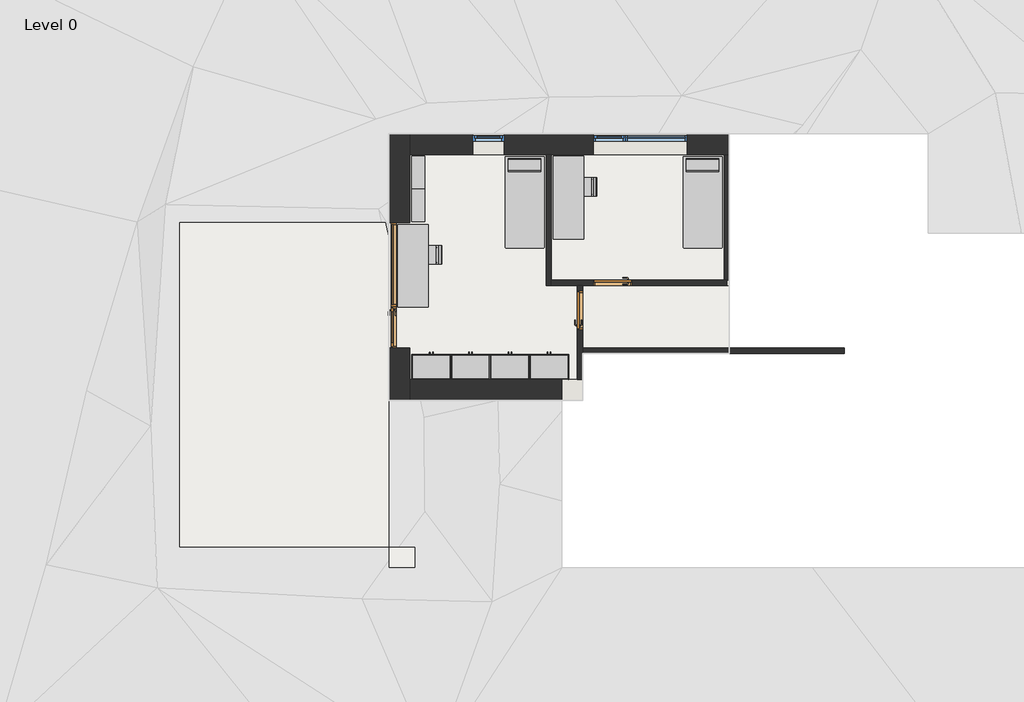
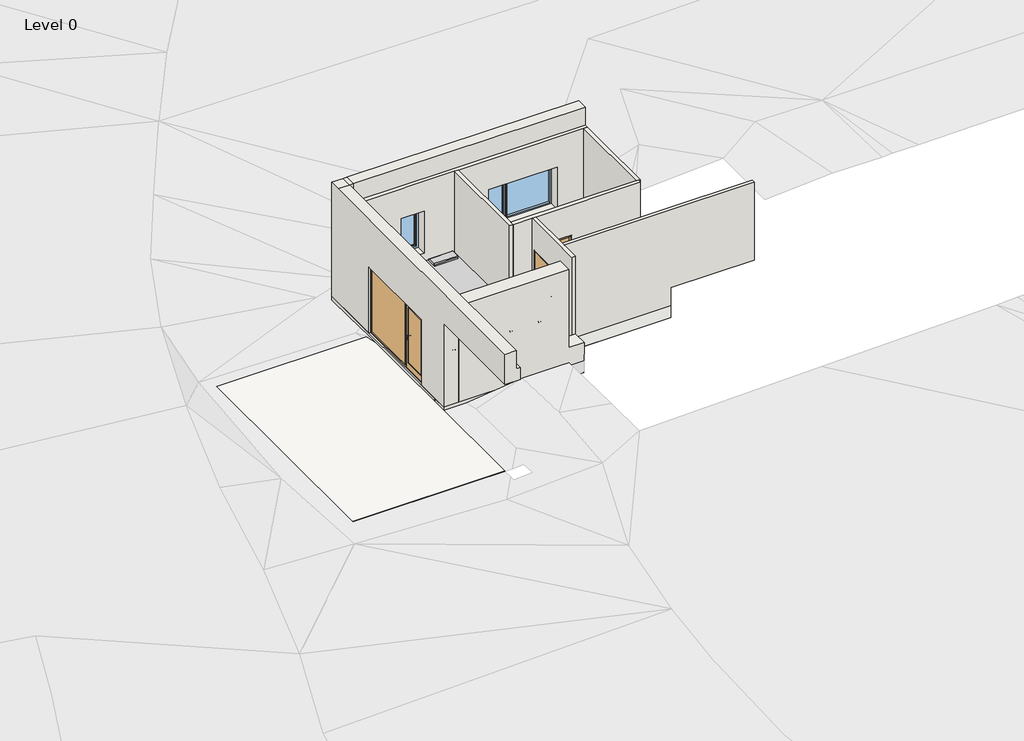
# One storey, part 1 of 2: 12 furniture elements, 11 walls, 4 slabs, 3 doors, 2 windows.
"""IFC4 building model written with IfcOpenShell, lengths in millimetres."""

from ifc_helpers import new_model, si_unit, frame, origin, place, context, project, spatial, polyline, outline, extrude, faceted_brep, transform, mapped, element, save
from components import ext_door_window_assembly_glass_2880x2200_mm_8e24472b, int_single_flush1_900x2200_mm_083ae047, int_single_flush1_900x2200_mm_924e3177, furniture_56f83323, furniture_1900_x_700mm_ac9d8d07, furniture_750_x_300_x_700mm_660817c4, bed_standard_2100_x_900mm_af0b1266, tall_cabinet_double_door_900_mm_12ca9f50, single_light_720x1400_mm_50d61ae6, window_assembly_individual_2160x1400_mm_9c06a6f2

model = new_model("IFC4")

# Units and contexts
model_context = context("Model", 3, world=origin())
ifc_project = project(units=[si_unit("LENGTHUNIT", "METRE", prefix="MILLI")], contexts=[model_context])

# Site, building, storey
site = spatial("IfcSite", under=ifc_project)
building = spatial("IfcBuilding", under=site)
storey = spatial("IfcBuildingStorey", under=building, Name="Level 0", Elevation=-600.0)

# Doors
placement = place(None, origin())
ext_door_window_assembly_glass_2880x2200_mm_shape = ext_door_window_assembly_glass_2880x2200_mm_8e24472b(model_context)
element("IfcDoor", 1, ObjectType="Ext. Door Window Assembly - Glass : 2880x2200 mm", at=placement, inside=storey, context=model_context, shape_type="MappedRepresentation", body=[
    mapped(ext_door_window_assembly_glass_2880x2200_mm_shape, transform((240.0, 6480.0, -600.0), x_axis=(0.0, -1.0, 0.0), y_axis=(1.0, 0.0, 0.0), z_axis=(0.0, 0.0, 1.0))),
])
int_single_flush1_900x2200_mm_shape = int_single_flush1_900x2200_mm_083ae047(model_context)
element("IfcDoor", 2, ObjectType="Int. Single-Flush1 : 900x2200 mm", at=placement, inside=storey, context=model_context, shape_type="MappedRepresentation", body=[
    mapped(int_single_flush1_900x2200_mm_shape, transform((4380.0, 5910.0, -600.0), x_axis=(0.0, 1.0, 0.0), y_axis=(-1.0, 0.0, 0.0), z_axis=(0.0, 0.0, 1.0))),
])
int_single_flush1_900x2200_mm_2_shape = int_single_flush1_900x2200_mm_924e3177(model_context)
element("IfcDoor", 3, ObjectType="Int. Single-Flush1 : 900x2200 mm", at=placement, inside=storey, context=model_context, shape_type="MappedRepresentation", body=[
    mapped(int_single_flush1_900x2200_mm_2_shape, transform((5130.0, 6540.0, -600.0), x_axis=(-1.0, 0.0, 0.0), y_axis=(0.0, -1.0, 0.0), z_axis=(0.0, 0.0, 1.0))),
])

# Furniture
furniture_shape = furniture_56f83323(model_context)
element("IfcFurniture", 4, ObjectType="Chair - Allround : Chair - allround", at=placement, inside=storey, context=model_context, shape_type="MappedRepresentation", body=[
    mapped(furniture_shape, transform((905.0, 7180.0, -600.0), x_axis=(0.0, -1.0000000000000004, 0.0), y_axis=(1.0000000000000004, 0.0, 0.0), z_axis=(0.0, 0.0, 1.0))),
])
element("IfcFurniture", 5, ObjectType="Chair - Allround : Chair - allround", at=placement, inside=storey, context=model_context, shape_type="MappedRepresentation", body=[
    mapped(furniture_shape, transform((4460.0, 8740.0, -600.0), x_axis=(0.0, -1.0000000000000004, 0.0), y_axis=(1.0000000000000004, 0.0, 0.0), z_axis=(0.0, 0.0, 1.0))),
])
furniture_1900_x_700mm_shape = furniture_1900_x_700mm_ac9d8d07(model_context)
element("IfcFurniture", 6, ObjectType="Table - Allround : 1900 x 700mm", at=placement, inside=storey, context=model_context, shape_type="MappedRepresentation", body=[
    mapped(furniture_1900_x_700mm_shape, transform((555.0, 6930.0, -600.0), x_axis=(0.0, 1.0, 0.0), y_axis=(-1.0, 0.0, 0.0), z_axis=(0.0, 0.0, 1.0))),
])
element("IfcFurniture", 7, ObjectType="Table - Allround : 1900 x 700mm", at=placement, inside=storey, context=model_context, shape_type="MappedRepresentation", body=[
    mapped(furniture_1900_x_700mm_shape, transform((4110.0, 8490.0, -600.0), x_axis=(0.0, 1.0, 0.0), y_axis=(-1.0, 0.0, 0.0), z_axis=(0.0, 0.0, 1.0))),
])
furniture_750_x_300_x_700mm_shape = furniture_750_x_300_x_700mm_660817c4(model_context)
element("IfcFurniture", 8, ObjectType="Shelving (Floor) - Allround : 750 x 300 x 700mm", at=placement, inside=storey, context=model_context, shape_type="MappedRepresentation", body=[
    mapped(furniture_750_x_300_x_700mm_shape, transform((365.2, 9065.0, -600.0), x_axis=(0.0, 1.0000000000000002, 0.0), y_axis=(-1.0000000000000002, 0.0, 0.0), z_axis=(0.0, 0.0, 1.0))),
])
element("IfcFurniture", 9, ObjectType="Shelving (Floor) - Allround : 750 x 300 x 700mm", at=placement, inside=storey, context=model_context, shape_type="MappedRepresentation", body=[
    mapped(furniture_750_x_300_x_700mm_shape, transform((365.2, 8315.0, -600.0), x_axis=(0.0, 1.0000000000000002, 0.0), y_axis=(-1.0000000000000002, 0.0, 0.0), z_axis=(0.0, 0.0, 1.0))),
])
bed_standard_2100_x_900mm_shape = bed_standard_2100_x_900mm_af0b1266(model_context)
element("IfcFurniture", 10, ObjectType="Bed - Standard : 2100 x 900mm", at=placement, inside=storey, context=model_context, shape_type="MappedRepresentation", body=[
    mapped(bed_standard_2100_x_900mm_shape, transform((2838.5114754, 8435.595082, -600.0), x_axis=(1.0, 0.0, 0.0), y_axis=(0.0, 1.0, 0.0), z_axis=(0.0, 0.0, 1.0))),
])
element("IfcFurniture", 11, ObjectType="Bed - Standard : 2100 x 900mm", at=placement, inside=storey, context=model_context, shape_type="MappedRepresentation", body=[
    mapped(bed_standard_2100_x_900mm_shape, transform((6918.5114754, 8435.595082, -600.0), x_axis=(1.0, 0.0, 0.0), y_axis=(0.0, 1.0, 0.0), z_axis=(0.0, 0.0, 1.0))),
])
tall_cabinet_double_door_900_mm_shape = tall_cabinet_double_door_900_mm_12ca9f50(model_context)
element("IfcFurniture", 12, ObjectType="Tall Cabinet - Double door : 900 mm", at=placement, inside=storey, context=model_context, shape_type="MappedRepresentation", body=[
    mapped(tall_cabinet_double_door_900_mm_shape, transform((1014.7003264, 4320.0, -600.0), x_axis=(-1.0000000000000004, 0.0, 0.0), y_axis=(0.0, -1.0000000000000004, 0.0), z_axis=(0.0, 0.0, 1.0))),
])
element("IfcFurniture", 13, ObjectType="Tall Cabinet - Double door : 900 mm", at=placement, inside=storey, context=model_context, shape_type="MappedRepresentation", body=[
    mapped(tall_cabinet_double_door_900_mm_shape, transform((1914.7003264, 4320.0, -600.0), x_axis=(-1.0000000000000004, 0.0, 0.0), y_axis=(0.0, -1.0000000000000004, 0.0), z_axis=(0.0, 0.0, 1.0))),
])
element("IfcFurniture", 14, ObjectType="Tall Cabinet - Double door : 900 mm", at=placement, inside=storey, context=model_context, shape_type="MappedRepresentation", body=[
    mapped(tall_cabinet_double_door_900_mm_shape, transform((2814.7003264, 4320.0, -600.0), x_axis=(-1.0000000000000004, 0.0, 0.0), y_axis=(0.0, -1.0000000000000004, 0.0), z_axis=(0.0, 0.0, 1.0))),
])
element("IfcFurniture", 15, ObjectType="Tall Cabinet - Double door : 900 mm", at=placement, inside=storey, context=model_context, shape_type="MappedRepresentation", body=[
    mapped(tall_cabinet_double_door_900_mm_shape, transform((3714.7003264, 4320.0, -600.0), x_axis=(-1.0000000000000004, 0.0, 0.0), y_axis=(0.0, -1.0000000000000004, 0.0), z_axis=(0.0, 0.0, 1.0))),
])

# Slabs
element("IfcSlab", 16, ObjectType="Generic - 400mm (Ground)", at=placement, inside=storey, context=model_context, shape_type="SweptSolid", body=[
    extrude(outline(polyline([(7800.0, 9480.0), (7800.0, 4920.0), (4440.0, 4920.0), (4440.0, 4320.0), (480.0, 4320.0), (480.0, 5040.0), (165.0, 5040.0), (165.0, 7920.0), (480.0, 7920.0), (480.0, 9480.0), (7800.0, 9480.0)])), frame((0.0, 0.0, -1000.0), z_axis=(0.0, 0.0, 1.0), x_axis=(1.0, 0.0, 0.0)), (0.0, 0.0, 1.0), 400.0),
])
element("IfcSlab", 17, ObjectType="Generic - Concrete 100mm (Exterior)", at=placement, inside=storey, context=model_context, shape_type="SweptSolid", body=[
    extrude(outline(polyline([(-4800.0, 7920.0), (0.0, 7920.0), (0.0, 480.0), (-4800.0, 480.0), (-4800.0, 7920.0)])), frame((0.0, 0.0, -800.0), z_axis=(0.0, 0.0, 1.0), x_axis=(1.0, 0.0, 0.0)), (0.0, 0.0, 1.0), 100.0),
])
element("IfcSlab", 18, ObjectType="Generic Pad - 2mm", at=placement, inside=storey, context=model_context, shape_type="SweptSolid", body=[
    extrude(outline(polyline([(7800.0, 9960.0), (7800.0, 4920.0), (4440.0, 4920.0), (4440.0, 3840.0), (0.0, 3840.0), (0.0, 9960.0), (7800.0, 9960.0)])), frame((0.0, 0.0, -1000.0), z_axis=(0.0, 0.0, 1.0), x_axis=(1.0, 0.0, 0.0)), (0.0, 0.0, 1.0), 2.0),
])
element("IfcSlab", 19, ObjectType="Generic Pad - 2mm", at=placement, inside=storey, context=model_context, shape_type="SweptSolid", body=[
    extrude(outline(polyline([(600.0, 0.0), (0.0, 0.0), (0.0, 480.0), (600.0, 480.0), (600.0, 0.0)])), frame((0.0, 0.0, -1902.0), z_axis=(0.0, 0.0, 1.0), x_axis=(1.0, 0.0, 0.0)), (0.0, 0.0, 1.0), 2.0),
])

# Walls
element("IfcWall", 20, ObjectType="Generic - 120mm (Interior)", at=placement, inside=storey, context=model_context, shape_type="Brep", body=[
    faceted_brep([(3600.0, 9480.0, -600.0), (3600.0, 6480.0, -600.0), (3600.0, 6480.0, 2600.0), (3600.0, 9480.0, 2600.0), (3720.0, 9480.0, -600.0), (3720.0, 9480.0, 2600.0), (3720.0, 6600.0, 2600.0), (3720.0, 6480.0, 2600.0), (3720.0, 6480.0, -600.0), (3720.0, 6600.0, -600.0)], [[[0, 1, 2, 3]], [[4, 5, 6, 7, 8, 9]], [[1, 0, 4, 9, 8]], [[2, 1, 8, 7]], [[0, 3, 5, 4]], [[3, 2, 7, 6, 5]]]),
])
element("IfcWall", 21, ObjectType="Generic - 120mm (Interior)", at=placement, inside=storey, context=model_context, shape_type="Brep", body=[
    faceted_brep([(3720.0, 6480.0, 2600.0), (3720.0, 6480.0, -600.0), (4320.0, 6480.0, -600.0), (4440.0, 6480.0, -600.0), (4680.0, 6480.0, -600.0), (4680.0, 6480.0, 1600.0), (5580.0, 6480.0, 1600.0), (5580.0, 6480.0, -600.0), (7800.0, 6480.0, -600.0), (7800.0, 6480.0, 0.0), (7740.0, 6480.0, 0.0), (7740.0, 6480.0, 2600.0), (4440.0, 6480.0, 2600.0), (4320.0, 6480.0, 2600.0), (3720.0, 6600.0, -600.0), (3720.0, 6600.0, 2600.0), (7680.0, 6600.0, 2600.0), (7740.0, 6600.0, 2600.0), (7740.0, 6600.0, 0.0), (7800.0, 6600.0, 0.0), (7800.0, 6600.0, -600.0), (7680.0, 6600.0, -600.0), (5580.0, 6600.0, -600.0), (5580.0, 6600.0, 1600.0), (4680.0, 6600.0, 1600.0), (4680.0, 6600.0, -600.0)], [[[0, 1, 2, 3, 4, 5, 6, 7, 8, 9, 10, 11, 12, 13]], [[14, 15, 16, 17, 18, 19, 20, 21, 22, 23, 24, 25]], [[1, 14, 25, 4, 3, 2]], [[20, 8, 7, 22, 21]], [[1, 0, 15, 14]], [[24, 5, 4, 25]], [[5, 24, 23, 6]], [[6, 23, 22, 7]], [[0, 13, 12, 11, 17, 16, 15]], [[17, 11, 10, 18]], [[18, 10, 9, 19]], [[9, 8, 20, 19]]]),
])
element("IfcWall", 22, ObjectType="Generic - 120mm (Interior)", at=placement, inside=storey, context=model_context, shape_type="Brep", body=[
    faceted_brep([(4440.0, 6480.0, -600.0), (4440.0, 6480.0, 2600.0), (4440.0, 5040.0, 2600.0), (4440.0, 4920.0, 2600.0), (4440.0, 4320.0, 2600.0), (4440.0, 4320.0, 0.0), (4440.0, 4320.0, -600.0), (4440.0, 4920.0, -600.0), (4440.0, 5040.0, -600.0), (4440.0, 5460.0, -600.0), (4440.0, 5460.0, 1600.0), (4440.0, 6360.0, 1600.0), (4440.0, 6360.0, -600.0), (4320.0, 6480.0, 2600.0), (4320.0, 6480.0, -600.0), (4320.0, 6360.0, -600.0), (4320.0, 6360.0, 1600.0), (4320.0, 5460.0, 1600.0), (4320.0, 5460.0, -600.0), (4320.0, 4320.0, -600.0), (4320.0, 4320.0, 2600.0)], [[[0, 1, 2, 3, 4, 5, 6, 7, 8, 9, 10, 11, 12]], [[13, 14, 15, 16, 17, 18, 19, 20]], [[14, 0, 12, 15]], [[6, 19, 18, 9, 8, 7]], [[1, 0, 14, 13]], [[6, 5, 4, 20, 19]], [[11, 16, 15, 12]], [[16, 11, 10, 17]], [[17, 10, 9, 18]], [[4, 3, 2, 1, 13, 20]]]),
])
element("IfcWall", 23, ObjectType="Generic - 120mm (Interior)", at=placement, inside=storey, context=model_context, shape_type="Brep", body=[
    faceted_brep([(7800.0, 6600.0, 2600.0), (7800.0, 6600.0, 0.0), (7800.0, 6600.0, -600.0), (7800.0, 9480.0, -600.0), (7800.0, 9480.0, 2600.0), (7800.0, 8640.0, 2600.0), (7800.0, 8520.0, 2600.0), (7680.0, 6600.0, -600.0), (7680.0, 6600.0, 2600.0), (7680.0, 9480.0, 2600.0), (7680.0, 9480.0, -600.0), (7740.0, 6600.0, 2600.0)], [[[0, 1, 2, 3, 4, 5, 6]], [[7, 8, 9, 10]], [[3, 2, 7, 10]], [[4, 3, 10, 9]], [[0, 6, 5, 4, 9, 8, 11]], [[0, 11, 8, 7, 2, 1]]]),
])
element("IfcWall", 24, ObjectType="Generic - 120mm (Interior)", at=placement, inside=storey, context=model_context, shape_type="SweptSolid", body=[
    extrude(outline(polyline([(-600.0, 4440.0), (-600.0, 7800.0), (0.0, 7800.0), (0.0, 10440.0), (2600.0, 10440.0), (2600.0, 4440.0), (-600.0, 4440.0)])), frame((0.0, 4920.0, 0.0), z_axis=(0.0, 1.0, 0.0), x_axis=(0.0, 0.0, 1.0)), (0.0, 0.0, 1.0), 120.0),
])
element("IfcWall", 25, ObjectType="Generic - 480mm (Exterior)", at=placement, inside=storey, context=model_context, shape_type="Brep", body=[
    faceted_brep([(480.0, 9960.0, -600.0), (480.0, 9960.0, 3200.0), (480.0, 9600.0, 3200.0), (480.0, 9600.0, 2600.0), (480.0, 9480.0, 2600.0), (480.0, 4320.0, 2600.0), (480.0, 3840.0, 2600.0), (480.0, 480.0, 2600.0), (480.0, 480.0, 2200.0), (480.0, 3840.0, 2200.0), (480.0, 3840.0, -600.0), (480.0, 4320.0, -600.0), (480.0, 5040.0, -600.0), (480.0, 5040.0, 1600.0), (480.0, 7920.0, 1600.0), (480.0, 7920.0, -600.0), (480.0, 9480.0, -600.0), (0.0, 9960.0, 3200.0), (0.0, 9960.0, -600.0), (0.0, 7920.0, -600.0), (0.0, 7920.0, 1600.0), (0.0, 5040.0, 1600.0), (0.0, 5040.0, -600.0), (0.0, 3840.0, -600.0), (0.0, 3840.0, 2200.0), (0.0, 480.0, 2200.0), (0.0, 480.0, 3200.0), (0.0, 9600.0, 3200.0), (360.0, 9960.0, 3200.0), (360.0, 480.0, 2600.0), (360.0, 480.0, 3200.0), (360.0, 9600.0, 3200.0), (360.0, 9600.0, 2600.0)], [[[0, 1, 2, 3, 4, 5, 6, 7, 8, 9, 10, 11, 12, 13, 14, 15, 16]], [[17, 18, 19, 20, 21, 22, 23, 24, 25, 26, 27]], [[1, 0, 18, 17, 28]], [[21, 13, 12, 22]], [[13, 21, 20, 14]], [[14, 20, 19, 15]], [[18, 0, 16, 15, 19]], [[10, 23, 22, 12, 11]], [[9, 8, 25, 24]], [[10, 9, 24, 23]], [[8, 7, 29, 30, 26, 25]], [[3, 2, 31, 32]], [[27, 26, 30, 31]], [[31, 30, 29, 32]], [[2, 1, 28, 31]], [[17, 27, 31, 28]], [[3, 32, 29, 7, 6, 5, 4]]]),
])
element("IfcWall", 26, ObjectType="Generic - 480mm (Exterior)", at=placement, inside=storey, context=model_context, shape_type="Brep", body=[
    faceted_brep([(480.0, 9480.0, -600.0), (3600.0, 9480.0, -600.0), (3720.0, 9480.0, -600.0), (7800.0, 9480.0, -600.0), (7800.0, 9480.0, 0.0), (7800.0, 9480.0, 2600.0), (3720.0, 9480.0, 2600.0), (3600.0, 9480.0, 2600.0), (480.0, 9480.0, 2600.0), (6840.0, 9480.0, 1600.0), (6840.0, 9480.0, 200.0), (4680.0, 9480.0, 200.0), (4680.0, 9480.0, 1600.0), (1920.0, 9480.0, 200.0), (1920.0, 9480.0, 1600.0), (2640.0, 9480.0, 1600.0), (2640.0, 9480.0, 200.0), (7800.0, 9960.0, -600.0), (480.0, 9960.0, -600.0), (480.0, 9960.0, 3200.0), (7800.0, 9960.0, 3200.0), (7800.0, 9960.0, 0.0), (6840.0, 9960.0, 200.0), (6840.0, 9960.0, 1600.0), (4680.0, 9960.0, 1600.0), (4680.0, 9960.0, 200.0), (1920.0, 9960.0, 1600.0), (1920.0, 9960.0, 200.0), (2640.0, 9960.0, 200.0), (2640.0, 9960.0, 1600.0), (480.0, 9600.0, 2600.0), (480.0, 9600.0, 3200.0), (7800.0, 9600.0, 3200.0), (7800.0, 9600.0, 2600.0)], [[[0, 1, 2, 3, 4, 5, 6, 7, 8], [9, 10, 11, 12], [13, 14, 15, 16]], [[17, 18, 19, 20, 21], [22, 23, 24, 25], [26, 27, 28, 29]], [[3, 2, 1, 0, 18, 17]], [[0, 8, 30, 31, 19, 18]], [[22, 10, 9, 23]], [[24, 12, 11, 25]], [[10, 22, 25, 11]], [[13, 27, 26, 14]], [[28, 16, 15, 29]], [[27, 13, 16, 28]], [[12, 24, 23, 9]], [[29, 15, 14, 26]], [[20, 19, 31, 32]], [[32, 31, 30, 33]], [[30, 8, 7, 6, 5, 33]], [[3, 17, 21, 20, 32, 33, 5, 4]]]),
])
element("IfcWall", 27, ObjectType="Generic - 480mm (Exterior)", at=placement, inside=storey, context=model_context, shape_type="Brep", body=[
    faceted_brep([(4440.0, 4320.0, -600.0), (4320.0, 4320.0, -600.0), (480.0, 4320.0, -600.0), (480.0, 4320.0, 2600.0), (3960.0, 4320.0, 2600.0), (3960.0, 4320.0, 0.0), (4440.0, 4320.0, 0.0), (4440.0, 3840.0, -600.0), (4440.0, 3840.0, 0.0), (3960.0, 3840.0, 0.0), (3960.0, 3840.0, 2200.0), (3960.0, 3840.0, 2600.0), (480.0, 3840.0, 2600.0), (480.0, 3840.0, 2200.0), (480.0, 3840.0, -600.0)], [[[0, 1, 2, 3, 4, 5, 6]], [[7, 8, 9, 10, 11, 12, 13, 14]], [[2, 1, 0, 7, 14]], [[2, 14, 13, 12, 3]], [[4, 3, 12, 11]], [[0, 6, 8, 7]], [[5, 4, 11, 10, 9]], [[5, 9, 8, 6]]]),
])
element("IfcWall", 28, ObjectType="Generic - 480mm (Foundation)", at=placement, inside=storey, context=model_context, shape_type="Brep", body=[
    faceted_brep([(3960.0, 4320.0, -1900.0), (480.0, 4320.0, -1900.0), (0.0, 4320.0, -1900.0), (0.0, 4320.0, -600.0), (480.0, 4320.0, -600.0), (3960.0, 4320.0, -600.0), (3960.0, 4320.0, -1300.0), (3960.0, 3840.0, -1900.0), (3960.0, 3840.0, -600.0), (0.0, 3840.0, -600.0), (0.0, 3840.0, -1900.0)], [[[0, 1, 2, 3, 4, 5, 6]], [[7, 8, 9, 10]], [[2, 1, 0, 7, 10]], [[5, 4, 3, 9, 8]], [[0, 6, 5, 8, 7]], [[3, 2, 10, 9]]]),
])
element("IfcWall", 29, ObjectType="Generic - 480mm (Foundation)", at=placement, inside=storey, context=model_context, shape_type="Brep", body=[
    faceted_brep([(480.0, 4320.0, -1900.0), (480.0, 9480.0, -1900.0), (480.0, 9960.0, -1900.0), (480.0, 9960.0, -600.0), (480.0, 9480.0, -600.0), (480.0, 7920.0, -600.0), (480.0, 7920.0, -1000.0), (480.0, 5040.0, -1000.0), (480.0, 5040.0, -600.0), (480.0, 4320.0, -600.0), (480.0, 4320.0, -1000.0), (0.0, 9960.0, -1900.0), (0.0, 4320.0, -1900.0), (0.0, 4320.0, -600.0), (0.0, 9960.0, -600.0), (165.0, 5040.0, -600.0), (165.0, 7920.0, -600.0), (165.0, 5040.0, -1000.0), (165.0, 7920.0, -1000.0)], [[[0, 1, 2, 3, 4, 5, 6, 7, 8, 9, 10]], [[11, 12, 13, 14]], [[2, 1, 0, 12, 11]], [[14, 13, 9, 8, 15, 16, 5, 4, 3]], [[9, 13, 12, 0, 10]], [[3, 2, 11, 14]], [[17, 7, 6, 18]], [[7, 17, 15, 8]], [[17, 18, 16, 15]], [[18, 6, 5, 16]]]),
])
element("IfcWall", 30, ObjectType="Generic - 480mm (Foundation)", at=placement, inside=storey, context=model_context, shape_type="Brep", body=[
    faceted_brep([(480.0, 9480.0, -1900.0), (7800.0, 9480.0, -1900.0), (7800.0, 9480.0, -1300.0), (7800.0, 9480.0, -600.0), (480.0, 9480.0, -600.0), (480.0, 9960.0, -1900.0), (480.0, 9960.0, -600.0), (7800.0, 9960.0, -600.0), (7800.0, 9960.0, -1300.0), (7800.0, 9960.0, -1900.0)], [[[0, 1, 2, 3, 4]], [[5, 6, 7, 8, 9]], [[1, 0, 5, 9]], [[3, 2, 1, 9, 8, 7]], [[4, 3, 7, 6]], [[0, 4, 6, 5]]]),
])

# Windows
single_light_720x1400_mm_shape = single_light_720x1400_mm_50d61ae6(model_context)
element("IfcWindow", 31, ObjectType="Single-Light : 720x1400 mm", at=placement, inside=storey, context=model_context, shape_type="MappedRepresentation", body=[
    mapped(single_light_720x1400_mm_shape, transform((2280.0, 9720.0, -600.0), x_axis=(1.0, 0.0, 0.0), y_axis=(0.0, 1.0, 0.0), z_axis=(0.0, 0.0, 1.0))),
])
window_assembly_individual_2160x1400_mm_shape = window_assembly_individual_2160x1400_mm_9c06a6f2(model_context)
element("IfcWindow", 32, ObjectType="Window Assembly Individual : 2160x1400 mm", at=placement, inside=storey, context=model_context, shape_type="MappedRepresentation", body=[
    mapped(window_assembly_individual_2160x1400_mm_shape, transform((5760.0, 9720.0, -600.0), x_axis=(-1.0, 0.0, 0.0), y_axis=(0.0, -1.0, 0.0), z_axis=(0.0, 0.0, 1.0))),
])

save(model, "model.ifc")
